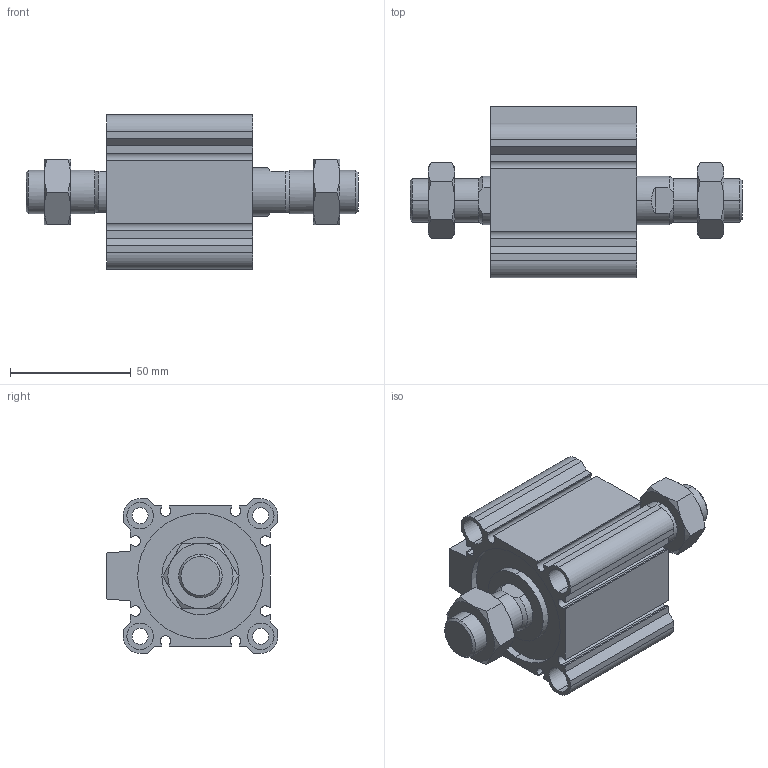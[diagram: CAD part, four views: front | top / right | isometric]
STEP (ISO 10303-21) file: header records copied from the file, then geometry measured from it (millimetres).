
FILE_DESCRIPTION (( 'STEP AP203' ), '1' );
FILE_NAME ('CCMB50-10M-P.STEP', '2020-08-10T11:41:41', ( '' ), ( '' ), 'SwSTEP 2.0', 'SolidWorks 2019', '' );
FILE_SCHEMA (( 'CONFIG_CONTROL_DESIGN' ));
Length unit declared in the file: millimetre
Products named in the file (1): CCMB50-10M-P
Bounding box: 137.5 x 71 x 64 mm (x, y, z)
Volume: 211056.1 mm3; surface area: 65480.8 mm2
Topology: 4 solids, 4 shells, 220 faces, 534 edges, 340 vertices
Faces by surface type: plane 98, cylinder 78, cone 44
Entity records: 7173 total; most frequent: CARTESIAN_POINT 1867, DIRECTION 1116, ORIENTED_EDGE 1068, EDGE_CURVE 534, AXIS2_PLACEMENT_3D 425, VERTEX_POINT 340, LINE 266, VECTOR 266
